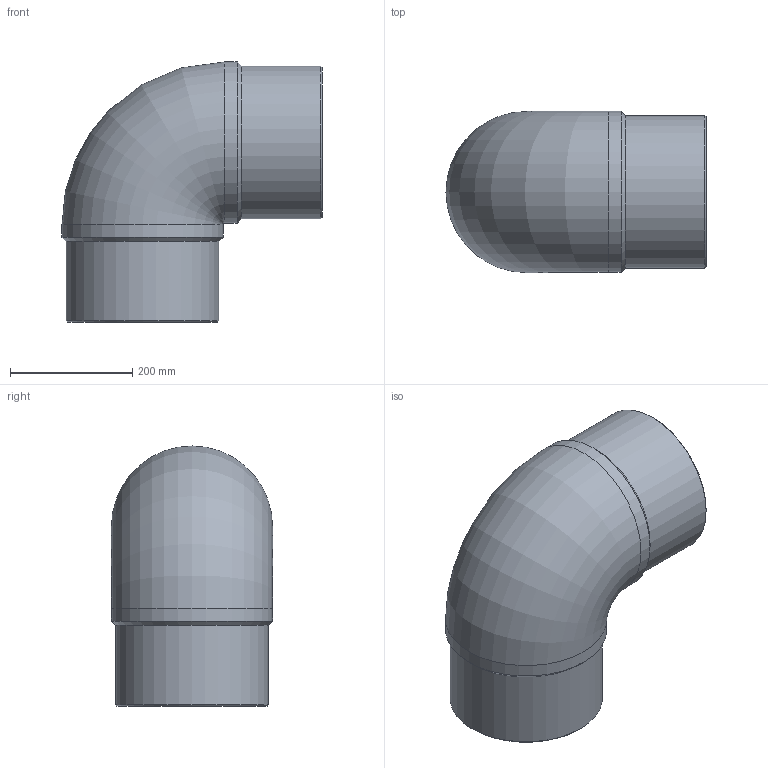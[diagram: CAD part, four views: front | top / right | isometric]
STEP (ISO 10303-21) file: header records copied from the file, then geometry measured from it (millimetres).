
FILE_DESCRIPTION(/* description */ ('Unknown'),/* implementation_level */ '2;1');
FILE_NAME(/* name */ 'G9P250H',/* time_stamp */ '2021-11-15T10:20:59+01:00',/* author */ ('Unknown'),/* organization */ ('Unknown'),/* preprocessor_version */ 'ST-DEVELOPER v16.7',/* originating_system */ 'Solid Edge',/* authorisation */ 'Unknown');
FILE_SCHEMA (('AUTOMOTIVE_DESIGN {1 0 10303 214 3 1 1}'));
Length unit declared in the file: millimetre
Products named in the file (1): G9P250H
Bounding box: 426 x 264 x 426 mm (x, y, z)
Volume: 13928796.8 mm3; surface area: 781494.3 mm2
Topology: 1 solids, 1 shells, 14 faces, 34 edges, 22 vertices
Faces by surface type: cylinder 6, cone 4, plane 2, torus 2
Full cylindrical faces by diameter (mm): 181.6 x2, 250 x2, 264 x2
Entity records: 376 total; most frequent: CARTESIAN_POINT 76, DIRECTION 60, ORIENTED_EDGE 38, AXIS2_PLACEMENT_3D 30, EDGE_LOOP 27, FACE_BOUND 27, EDGE_CURVE 19, VERTEX_POINT 18
